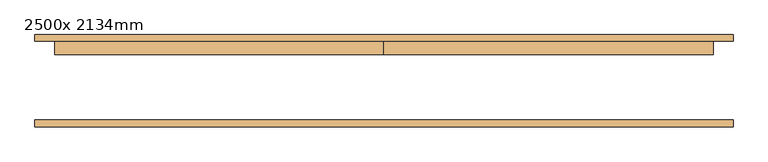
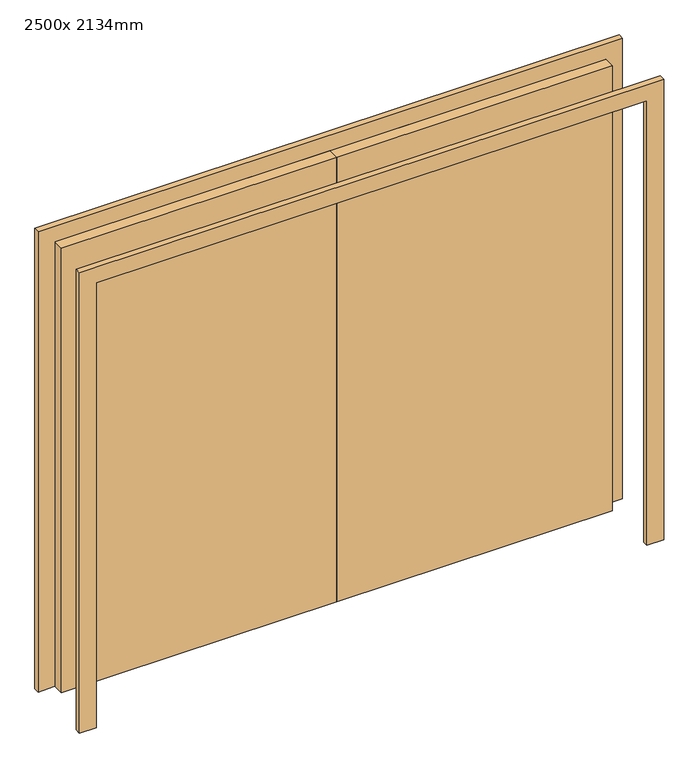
"""IFC4 building model written with IfcOpenShell, lengths in millimetres: door geometry, Puerta atamborada de 2 hojas : 2500x 2134mm."""

from ifc_helpers import new_model, si_unit, frame, origin, origin_with_axes, place, context, project, spatial, polyline, outline, extrude, source, transform, mapped, element, save


def door_2500x_2134mm_a108a5bc(model_context):
    return source(origin(), model_context, "Body", "SweptSolid", [
        extrude(outline(polyline([(0.0, 150.0), (1250.0, 150.0), (1250.0, 99.0), (0.0, 99.0), (0.0, 150.0)])), origin_with_axes(), (0.0, 0.0, 1.0), 2134.0),
        extrude(outline(polyline([(-1250.0, 150.0), (0.0, 150.0), (0.0, 99.0), (-1250.0, 99.0), (-1250.0, 150.0)])), origin_with_axes(), (0.0, 0.0, 1.0), 2134.0),
        extrude(outline(polyline([(2134.0, -1250.0), (2134.0, 1250.0), (0.0, 1250.0), (0.0, 1326.0), (2210.0, 1326.0), (2210.0, -1326.0), (0.0, -1326.0), (0.0, -1250.0), (2134.0, -1250.0)])), frame((0.0, -175.0, 0.0), z_axis=(0.0, 1.0, 0.0), x_axis=(0.0, 0.0, 1.0)), (0.0, 0.0, 1.0), 25.0),
        extrude(outline(polyline([(2134.0, -1250.0), (2134.0, 1250.0), (0.0, 1250.0), (0.0, 1326.0), (2210.0, 1326.0), (2210.0, -1326.0), (0.0, -1326.0), (0.0, -1250.0), (2134.0, -1250.0)])), frame((0.0, 150.0, 0.0), z_axis=(0.0, 1.0, 0.0), x_axis=(0.0, 0.0, 1.0)), (0.0, 0.0, 1.0), 25.0),
    ])


if __name__ == "__main__":
    model = new_model("IFC4")
    model_context = context("Model", 3, world=origin())
    ifc_project = project(units=[si_unit("LENGTHUNIT", "METRE", prefix="MILLI")], contexts=[model_context])
    site = spatial("IfcSite", under=ifc_project)
    building = spatial("IfcBuilding", under=site)
    placement = place(None, origin())
    door_2500x_2134mm_shape = door_2500x_2134mm_a108a5bc(model_context)
    element("IfcDoor", 1, ObjectType="Puerta atamborada de 2 hojas : 2500x 2134mm", at=placement, inside=building, context=model_context, shape_type="MappedRepresentation", body=[
        mapped(door_2500x_2134mm_shape, transform((0.0, 0.0, 0.0), x_axis=(1.0, 0.0, 0.0), y_axis=(0.0, 1.0, 0.0), z_axis=(0.0, 0.0, 1.0))),
    ])
    save(model, "model.ifc")
